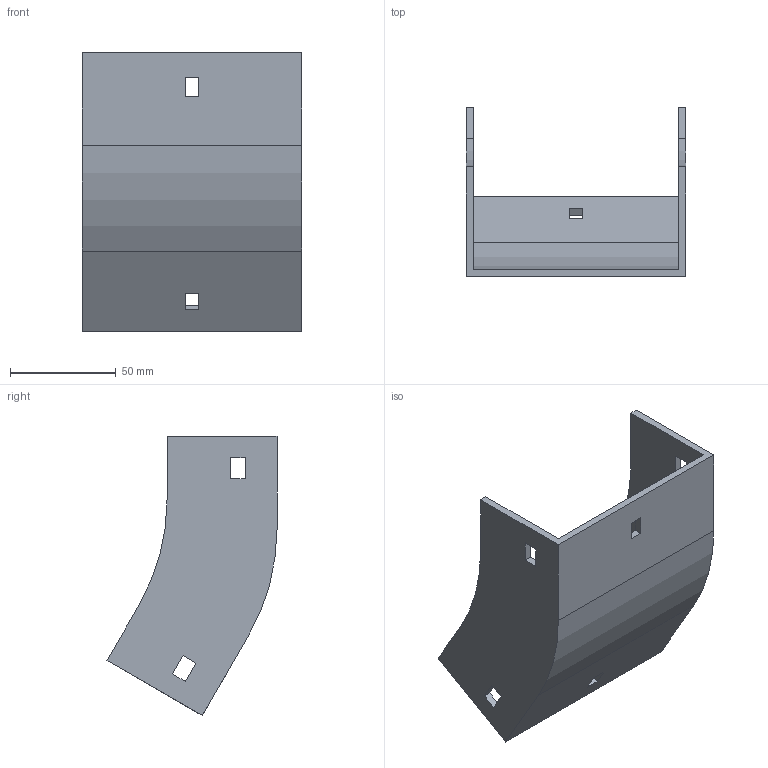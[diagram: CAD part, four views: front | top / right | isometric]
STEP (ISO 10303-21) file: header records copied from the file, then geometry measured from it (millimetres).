
FILE_DESCRIPTION (( 'STEP AP214' ), '1' );
FILE_NAME ('32F1B100.step', '2025-02-21T12:57:58', ( '' ), ( '' ), 'SwSTEP 2.0', 'SolidWorks 2023', '' );
FILE_SCHEMA (( 'AUTOMOTIVE_DESIGN' ));
Length unit declared in the file: millimetre
Products named in the file (1): 32F1B100
Bounding box: 104 x 80.4 x 131.98 mm (x, y, z)
Volume: 92324.8 mm3; surface area: 55650 mm2
Topology: 1 solids, 1 shells, 42 faces, 120 edges, 80 vertices
Faces by surface type: plane 38, cylinder 4
Entity records: 1399 total; most frequent: CARTESIAN_POINT 243, ORIENTED_EDGE 240, DIRECTION 214, EDGE_CURVE 120, LINE 112, VECTOR 112, VERTEX_POINT 80, EDGE_LOOP 54
